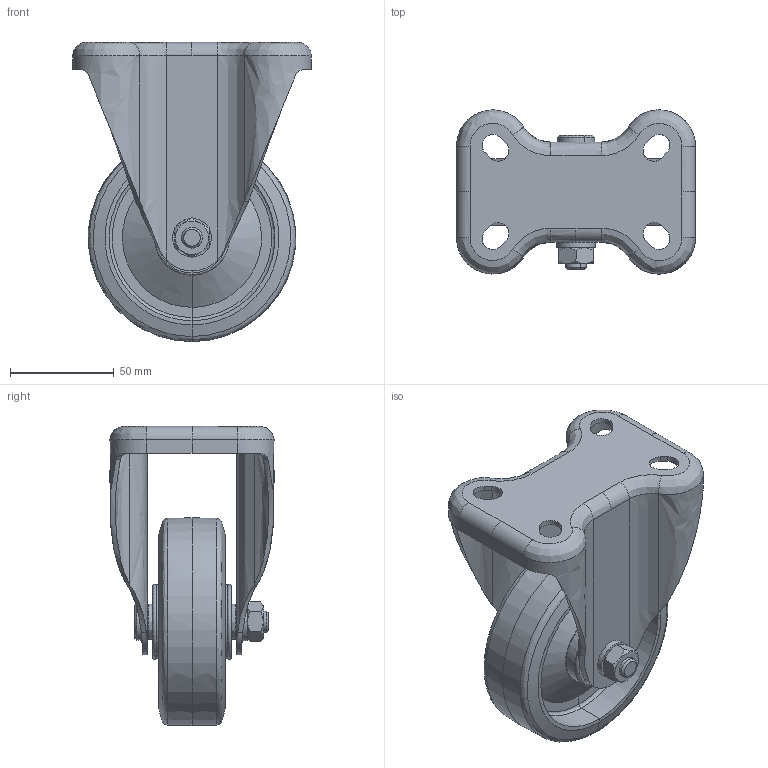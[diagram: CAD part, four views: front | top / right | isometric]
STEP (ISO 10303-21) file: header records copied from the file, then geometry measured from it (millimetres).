
FILE_DESCRIPTION (( 'STEP AP214' ), '1' );
FILE_NAME ('P-100WK.STEP', '2025-01-28T10:18:08', ( 'sakai' ), ( 'Hewlett-Packard' ), 'SwSTEP 2.0', 'SolidWorks 2010', '' );
FILE_SCHEMA (( 'AUTOMOTIVE_DESIGN' ));
Length unit declared in the file: millimetre
Products named in the file (10): P-100WK-10; P-100WK-11; P-100WK-12; P-100WK-13; P-100WK-14; P-100WK-15; P-100WK-16; P-100WK-17; P-100WK-18; P-100WK
Assembly tree (9 placements, depth 2):
  P-100WK
    P-100WK-10
    P-100WK-16
    P-100WK-17
    P-100WK-13
    P-100WK-14
    P-100WK-15
    P-100WK-18
    P-100WK-11
    P-100WK-12
Bounding box: 115 x 79 x 144 mm (x, y, z)
Volume: 181035 mm3; surface area: 128049.1 mm2
Topology: 34 solids, 34 shells, 540 faces, 1490 edges, 921 vertices
Faces by surface type: bspline 469, plane 71
Entity records: 111694 total; most frequent: CARTESIAN_POINT 97769, ORIENTED_EDGE 2820, EDGE_CURVE 1410, B_SPLINE_CURVE_WITH_KNOTS 1178, VERTEX_POINT 921, EDGE_LOOP 559, FACE_OUTER_BOUND 540, ADVANCED_FACE 540
